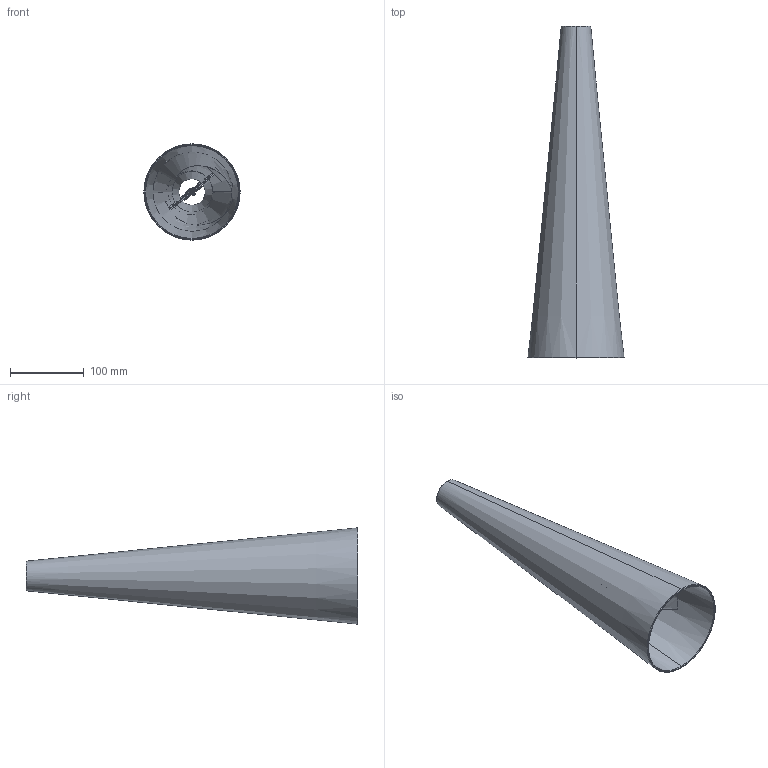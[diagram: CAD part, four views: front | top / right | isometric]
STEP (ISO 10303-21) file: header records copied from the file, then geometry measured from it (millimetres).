
FILE_DESCRIPTION (( 'STEP AP214' ), '1' );
FILE_NAME ('21010ME_Sospensione 45.STEP', '2023-11-21T16:04:37', ( '' ), ( '' ), 'SwSTEP 2.0', 'SolidWorks 2023', '' );
FILE_SCHEMA (( 'AUTOMOTIVE_DESIGN' ));
Length unit declared in the file: millimetre
Products named in the file (6): 210V001_210V001; 21010ME_Sospensione 45; 210E00x_210E002; 210P002_00_Aperto; 210E001_258; Cavo_00
Assembly tree (5 placements, depth 2):
  21010ME_Sospensione 45
    210V001_210V001
    210E001_258
    210E00x_210E002
    210P002_00_Aperto
    Cavo_00
Bounding box: 130.46 x 450.07 x 130.46 mm (x, y, z)
Volume: 315154.8 mm3; surface area: 394975.4 mm2
Topology: 11 solids, 11 shells, 309 faces, 794 edges, 511 vertices
Faces by surface type: plane 132, cylinder 75, bspline 48, torus 26, cone 20, sphere 8
Entity records: 11924 total; most frequent: CARTESIAN_POINT 4391, ORIENTED_EDGE 1568, DIRECTION 1431, EDGE_CURVE 784, VERTEX_POINT 510, AXIS2_PLACEMENT_3D 505, LINE 421, VECTOR 421
